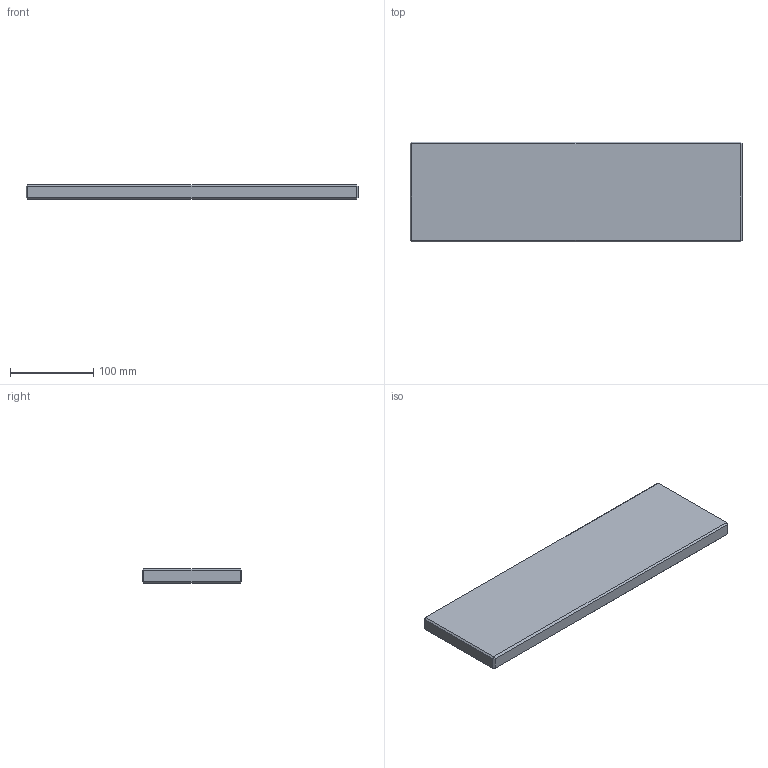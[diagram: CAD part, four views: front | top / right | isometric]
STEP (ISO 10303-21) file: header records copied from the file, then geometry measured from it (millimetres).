
FILE_DESCRIPTION(('Open CASCADE Model'),'2;1');
FILE_NAME('Open CASCADE Shape Model','2026-09-27T15:56:00',('Author'),( 'Open CASCADE'),'Open CASCADE STEP processor 7.9','Open CASCADE 7.9' ,'Unknown');
FILE_SCHEMA(('AUTOMOTIVE_DESIGN { 1 0 10303 214 1 1 1 1 }'));
Length unit declared in the file: millimetre
Products named in the file (1): Open CASCADE STEP translator 7.9 3
Bounding box: 400 x 120 x 18 mm (x, y, z)
Volume: 859738.7 mm3; surface area: 112186.7 mm2
Topology: 1 solids, 1 shells, 26 faces, 48 edges, 24 vertices
Faces by surface type: plane 26
Entity records: 1234 total; most frequent: DIRECTION 198, CARTESIAN_POINT 195, LINE 144, VECTOR 144, ORIENTED_EDGE 96, PCURVE 96, DEFINITIONAL_REPRESENTATION 96, EDGE_CURVE 48
